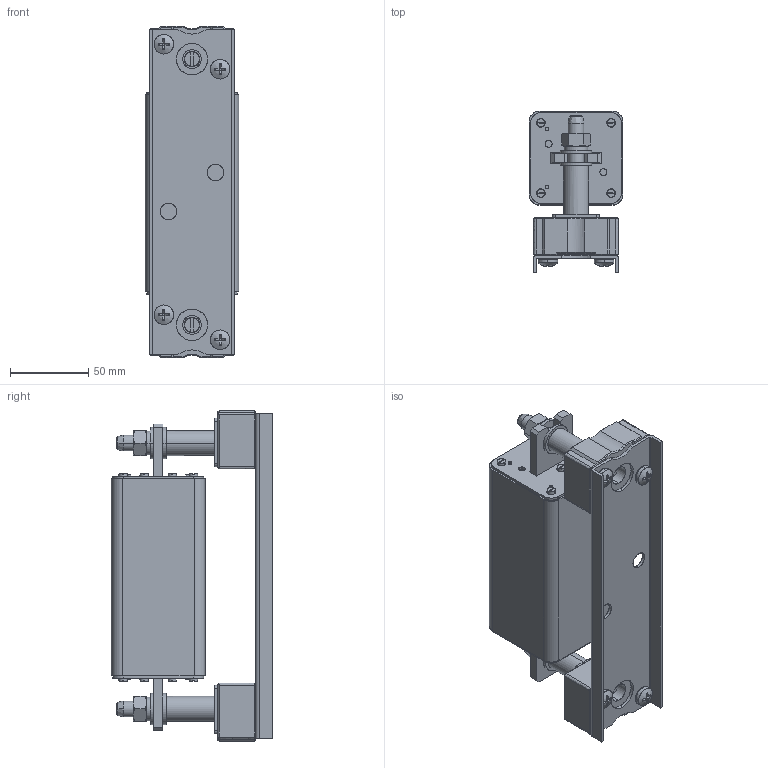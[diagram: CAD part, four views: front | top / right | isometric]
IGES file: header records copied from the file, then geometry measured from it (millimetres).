
Start section: SolidWorks IGES file using analytic representation for surfaces
Global section: file name: U:\14_RD\05_Technical_office\04_Office\Hrdinova\3D modely - IGES\Varius - Ostatní\SP50X16__P50V16.IGS; native system: SolidWorks 2011; preprocessor: SolidWorks 2011; author: adhrja3; date: 170620.142910; units: millimetre
Bounding box: 60 x 103.2 x 212 mm (x, y, z)
Surface area: 143040 mm2 (no closed solid volume)
Topology: 0 solids, 0 shells, 1243 faces, 16457 edges, 16433 vertices
Faces by surface type: bspline 721, revolution 522
